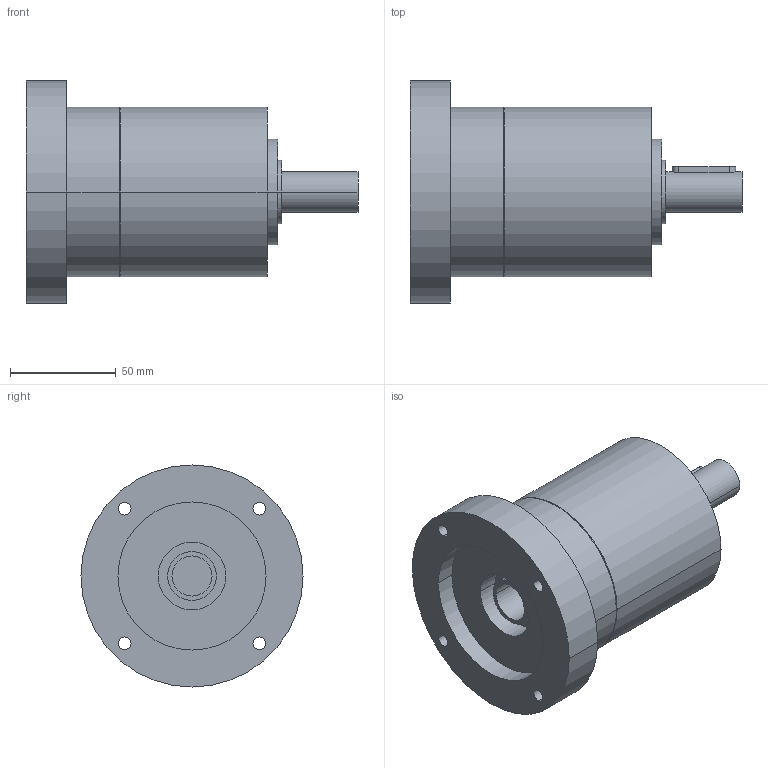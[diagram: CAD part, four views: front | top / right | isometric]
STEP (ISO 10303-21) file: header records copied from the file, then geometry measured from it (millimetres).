
FILE_DESCRIPTION(('CoCreate Modeling STEP Export'),'2;1');
FILE_NAME('GPR100_ig-3-4-5-6_19_B14_19_P14.stp','2014-08-26T10:08:42',(''),(''),'CoCreate Modeling STEP processor for AP214 (Solid Model)','CoCreate Modeling 16.00C 25-Feb-2009 (C) Parametric Technology GmbH','');
FILE_SCHEMA(('AUTOMOTIVE_DESIGN { 1 0 10303 214 1 1 1 1 }'));
Length unit declared in the file: millimetre
Products named in the file (2): GPR100_ig-3-4-5-6_19_B14_19_P14
Assembly tree (1 placements, depth 2):
  GPR100_ig-3-4-5-6_19_B14_19_P14
    GPR100_ig-3-4-5-6_19_B14_19_P14
Bounding box: 157 x 105 x 105 mm (x, y, z)
Volume: 608520.9 mm3; surface area: 59521.1 mm2
Topology: 1 solids, 1 shells, 76 faces, 204 edges, 146 vertices
Faces by surface type: cylinder 48, plane 22, cone 6
Entity records: 2032 total; most frequent: ORIENTED_EDGE 404, CARTESIAN_POINT 371, DIRECTION 262, EDGE_CURVE 202, VERTEX_POINT 146, EDGE_LOOP 102, AXIS2_PLACEMENT_3D 101, FACE_OUTER_BOUND 76
